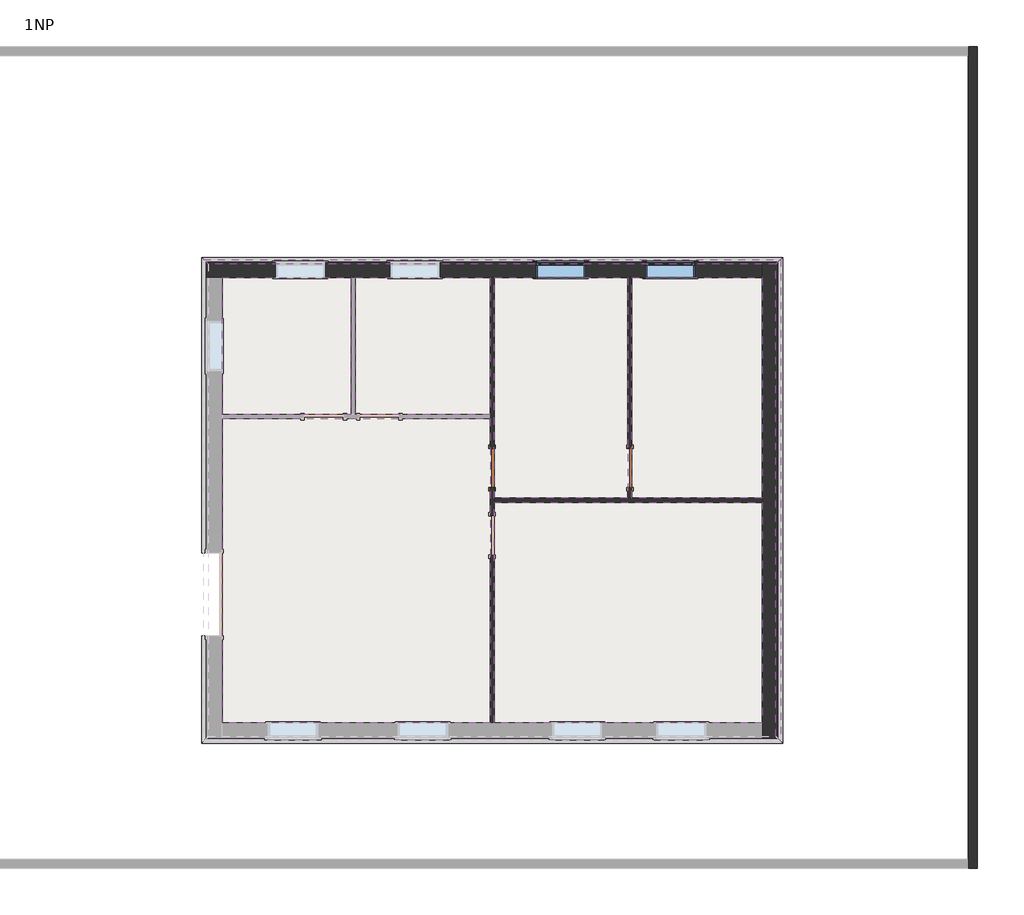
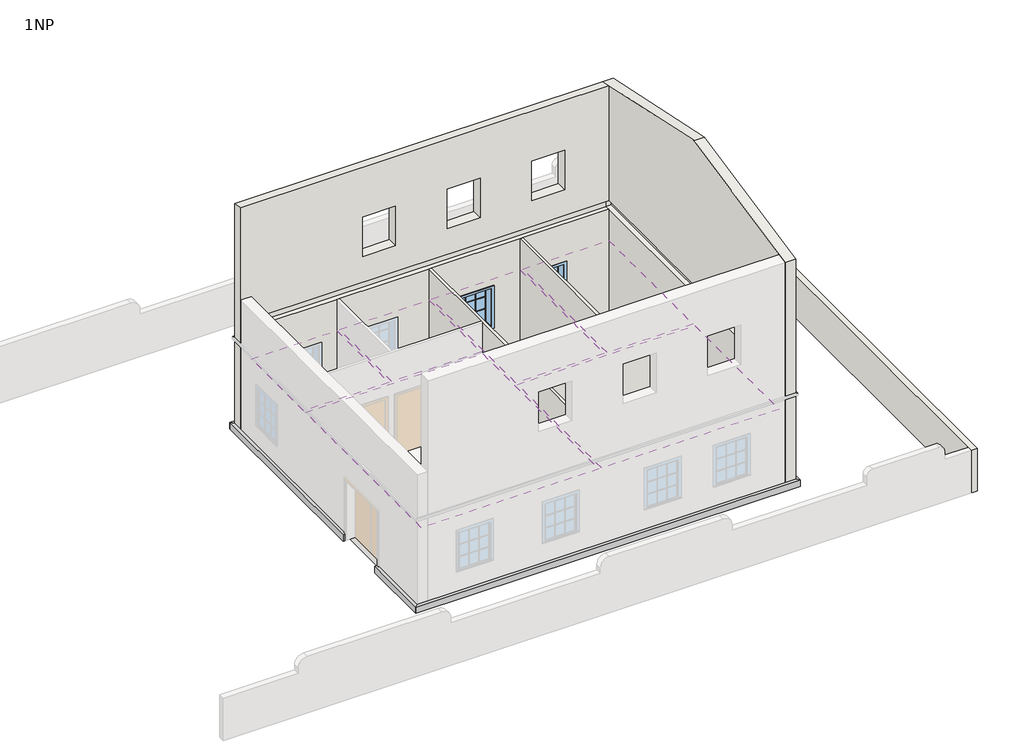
# One storey, part 2 of 2: 6 coverings, 6 proxies, 6 walls, 2 doors, 2 windows, 1 slab.
"""IFC4 building model written with IfcOpenShell, lengths in millimetres."""

from ifc_helpers import new_model, si_unit, frame, origin, origin_with_axes, place, context, project, spatial, polyline, outline, extrude, faceted_brep, transform, mapped, element, save
from components import m_single_flush_0864_x_2134mm_2f1c7364, m_casement_3x3_with_trim_1100_x_1400mm_61373874

model = new_model("IFC4")

# Units and contexts
model_context = context("Model", 3, world=origin())
ifc_project = project(units=[si_unit("LENGTHUNIT", "METRE", prefix="MILLI")], contexts=[model_context])

# Site, building, storey
site = spatial("IfcSite", under=ifc_project)
building = spatial("IfcBuilding", under=site)
storey = spatial("IfcBuildingStorey", under=building, Name="1NP", Elevation=0.0)

# Proxies
placement = place(None, origin())
element("IfcBuildingElementProxy", 1, Name="Wall Sweeps", at=placement, inside=storey, context=model_context, shape_type="Brep", body=[
    faceted_brep([(7957.8965437, -5261.3644596, 225.0), (7957.8965437, -5261.3644596, 0.0), (7855.3965437, -5158.8644596, 0.0), (7855.3965437, -5158.8644596, 225.0), (-4897.1034563, -5261.3644596, 225.0), (-4794.6034563, -5158.8644596, 225.0), (-4794.6034563, -5158.8644596, 0.0), (-4897.1034563, -5261.3644596, 0.0), (-4444.6034563, -5158.8644596, 0.0), (7505.3965437, -5158.8644596, 0.0)], [[[0, 1, 2, 3]], [[4, 5, 6, 7]], [[1, 0, 4, 7]], [[2, 1, 7, 6, 8, 9]], [[3, 2, 9, 8, 6, 5]], [[0, 3, 5, 4]]]),
])
element("IfcBuildingElementProxy", 2, Name="Reveals", at=placement, inside=storey, context=model_context, shape_type="SweptSolid", body=[
    extrude(outline(polyline([(-4749.6034563, 5346.1355404), (-4852.1034563, 5448.6355404), (7912.8965437, 5448.6355404), (7810.3965437, 5346.1355404), (-4749.6034563, 5346.1355404)])), frame((0.0, 0.0, 3200.0), z_axis=(0.0, 0.0, 1.0), x_axis=(1.0, 0.0, 0.0)), (0.0, 0.0, 1.0), 75.0),
])
element("IfcBuildingElementProxy", 3, Name="Wall Sweeps", at=placement, inside=storey, context=model_context, shape_type="Brep", body=[
    faceted_brep([(-4897.1034563, 5493.6355404, 225.0), (-4897.1034563, 5493.6355404, 0.0), (-4794.6034563, 5391.1355404, 0.0), (-4794.6034563, 5391.1355404, 225.0), (7957.8965437, 5493.6355404, 225.0), (7855.3965437, 5391.1355404, 225.0), (7855.3965437, 5391.1355404, 0.0), (7957.8965437, 5493.6355404, 0.0), (7505.3965437, 5391.1355404, 0.0)], [[[0, 1, 2, 3]], [[4, 5, 6, 7]], [[1, 0, 4, 7]], [[2, 1, 7, 6, 8]], [[3, 2, 8, 6, 5]], [[0, 3, 5, 4]]]),
])
element("IfcBuildingElementProxy", 4, Name="Wall Sweeps", at=placement, inside=storey, context=model_context, shape_type="Brep", body=[
    faceted_brep([(-4897.1034563, -5261.3644596, 225.0), (-4897.1034563, -5261.3644596, 0.0), (-4794.6034563, -5158.8644596, 0.0), (-4794.6034563, -5158.8644596, 225.0), (-4897.1034563, -2883.8644596, 225.0), (-4794.6034563, -2883.8644596, 225.0), (-4794.6034563, -2883.8644596, 0.0), (-4897.1034563, -2883.8644596, 0.0)], [[[0, 1, 2, 3]], [[4, 5, 6, 7]], [[1, 0, 4, 7]], [[2, 1, 7, 6]], [[3, 2, 6, 5]], [[0, 3, 5, 4]]]),
    faceted_brep([(-4897.1034563, -1053.8644596, 225.0), (-4897.1034563, -1053.8644596, 0.0), (-4794.6034563, -1053.8644596, 0.0), (-4794.6034563, -1053.8644596, 225.0), (-4897.1034563, 5493.6355404, 225.0), (-4794.6034563, 5391.1355404, 225.0), (-4794.6034563, 5391.1355404, 0.0), (-4897.1034563, 5493.6355404, 0.0), (-4794.6034563, 5041.1355404, 0.0)], [[[0, 1, 2, 3]], [[4, 5, 6, 7]], [[1, 0, 4, 7]], [[2, 1, 7, 6, 8]], [[3, 2, 8, 6, 5]], [[0, 3, 5, 4]]]),
])
element("IfcBuildingElementProxy", 5, Name="Reveals", at=placement, inside=storey, context=model_context, shape_type="SweptSolid", body=[
    extrude(outline(polyline([(7810.3965437, 5346.1355404), (7912.8965437, 5448.6355404), (7912.8965437, -5216.3644596), (7810.3965437, -5113.8644596), (7810.3965437, 5346.1355404)])), frame((0.0, 0.0, 3200.0), z_axis=(0.0, 0.0, 1.0), x_axis=(1.0, 0.0, 0.0)), (0.0, 0.0, 1.0), 75.0),
])
element("IfcBuildingElementProxy", 6, Name="Wall Sweeps", at=placement, inside=storey, context=model_context, shape_type="SweptSolid", body=[
    extrude(outline(polyline([(7855.3965437, 5391.1355404), (7957.8965437, 5493.6355404), (7957.8965437, -5261.3644596), (7855.3965437, -5158.8644596), (7855.3965437, 5391.1355404)])), origin_with_axes(), (0.0, 0.0, 1.0), 225.0),
])

# Coverings
element("IfcCovering", 7, ObjectType="600 x 600mm grid", at=placement, inside=storey, context=model_context, shape_type="SweptSolid", body=[
    extrude(outline(polyline([(-4444.6034563, -4808.8644596), (-4444.6034563, 1921.1355404), (1485.3965437, 1921.1355404), (1485.3965437, -4808.8644596), (-4444.6034563, -4808.8644596)])), frame((0.0, 0.0, 2600.0), z_axis=(0.0, 0.0, 1.0), x_axis=(1.0, 0.0, 0.0)), (0.0, 0.0, 1.0), 52.0),
])
element("IfcCovering", 8, ObjectType="600 x 600mm grid", at=placement, inside=storey, context=model_context, shape_type="SweptSolid", body=[
    extrude(outline(polyline([(-1499.6034563, 5041.1355404), (1485.3965437, 5041.1355404), (1485.3965437, 2011.1355404), (-1499.6034563, 2011.1355404), (-1499.6034563, 5041.1355404)])), frame((0.0, 0.0, 2600.0), z_axis=(0.0, 0.0, 1.0), x_axis=(1.0, 0.0, 0.0)), (0.0, 0.0, 1.0), 52.0),
])
element("IfcCovering", 9, ObjectType="600 x 600mm grid", at=placement, inside=storey, context=model_context, shape_type="SweptSolid", body=[
    extrude(outline(polyline([(-4444.6034563, 5041.1355404), (-1589.6034563, 5041.1355404), (-1589.6034563, 2011.1355404), (-4444.6034563, 2011.1355404), (-4444.6034563, 5041.1355404)])), frame((0.0, 0.0, 2600.0), z_axis=(0.0, 0.0, 1.0), x_axis=(1.0, 0.0, 0.0)), (0.0, 0.0, 1.0), 52.0),
])
element("IfcCovering", 10, ObjectType="600 x 600mm grid", at=placement, inside=storey, context=model_context, shape_type="SweptSolid", body=[
    extrude(outline(polyline([(1575.3965437, 161.1355404), (1575.3965437, 5041.1355404), (4535.3965437, 5041.1355404), (4535.3965437, 161.1355404), (1575.3965437, 161.1355404)])), frame((0.0, 0.0, 2600.0), z_axis=(0.0, 0.0, 1.0), x_axis=(1.0, 0.0, 0.0)), (0.0, 0.0, 1.0), 52.0),
])
element("IfcCovering", 11, ObjectType="600 x 600mm grid", at=placement, inside=storey, context=model_context, shape_type="SweptSolid", body=[
    extrude(outline(polyline([(4625.3965437, 5041.1355404), (7505.3965437, 5041.1355404), (7505.3965437, 161.1355404), (4625.3965437, 161.1355404), (4625.3965437, 5041.1355404)])), frame((0.0, 0.0, 2600.0), z_axis=(0.0, 0.0, 1.0), x_axis=(1.0, 0.0, 0.0)), (0.0, 0.0, 1.0), 52.0),
])
element("IfcCovering", 12, ObjectType="600 x 600mm grid", at=placement, inside=storey, context=model_context, shape_type="SweptSolid", body=[
    extrude(outline(polyline([(7505.3965437, -4808.8644596), (1575.3965437, -4808.8644596), (1575.3965437, 71.1355404), (7505.3965437, 71.1355404), (7505.3965437, -4808.8644596)])), frame((0.0, 0.0, 2600.0), z_axis=(0.0, 0.0, 1.0), x_axis=(1.0, 0.0, 0.0)), (0.0, 0.0, 1.0), 52.0),
])

# Doors
m_single_flush_0864_x_2134mm_shape = m_single_flush_0864_x_2134mm_2f1c7364(model_context)
element("IfcDoor", 13, ObjectType="M_Single-Flush : 0864 x 2134mm", at=placement, inside=storey, context=model_context, shape_type="MappedRepresentation", body=[
    mapped(m_single_flush_0864_x_2134mm_shape, transform((1530.3965437, 831.1817862, 0.0), x_axis=(0.0, -1.0, 0.0), y_axis=(1.0, 0.0, 0.0), z_axis=(0.0, 0.0, 1.0))),
])
element("IfcDoor", 14, ObjectType="M_Single-Flush : 0864 x 2134mm", at=placement, inside=storey, context=model_context, shape_type="MappedRepresentation", body=[
    mapped(m_single_flush_0864_x_2134mm_shape, transform((4580.3965437, 831.1817862, 0.0), x_axis=(0.0, -1.0, 0.0), y_axis=(1.0, 0.0, 0.0), z_axis=(0.0, 0.0, 1.0))),
])

# Slab
element("IfcSlab", 15, ObjectType="Generic 300mm", at=placement, inside=storey, context=model_context, shape_type="SweptSolid", body=[
    extrude(outline(polyline([(-4457.6034563, 5054.1355404), (7518.3965437, 5054.1355404), (7518.3965437, -4821.8644596), (-4457.6034563, -4821.8644596), (-4457.6034563, 5054.1355404)])), frame((0.0, 0.0, -300.0), z_axis=(0.0, 0.0, 1.0), x_axis=(1.0, 0.0, 0.0)), (0.0, 0.0, 1.0), 300.0),
])

# Walls
element("IfcWall", 16, ObjectType="Exterior - Brick on Mtl. Stud se základem", at=placement, inside=storey, context=model_context, shape_type="Brep", body=[
    faceted_brep([(-4794.6034563, 5041.1355404, 0.0), (-4444.6034563, 5041.1355404, 0.0), (-1589.6034563, 5041.1355404, 0.0), (-1499.6034563, 5041.1355404, 0.0), (1485.3965437, 5041.1355404, 0.0), (1575.3965437, 5041.1355404, 0.0), (4535.3965437, 5041.1355404, 0.0), (4625.3965437, 5041.1355404, 0.0), (7505.3965437, 5041.1355404, 0.0), (7505.3965437, 5041.1355404, 3700.0), (4625.3965437, 5041.1355404, 3700.0), (4535.3965437, 5041.1355404, 3700.0), (1575.3965437, 5041.1355404, 3700.0), (1485.3965437, 5041.1355404, 3700.0), (-1499.6034563, 5041.1355404, 3700.0), (-1589.6034563, 5041.1355404, 3700.0), (-4444.6034563, 5041.1355404, 3700.0), (-4609.6034563, 5041.1355404, 3700.0), (-4609.6034563, 5041.1355404, 4000.0), (-4444.6034563, 5041.1355404, 4000.0), (555.3965437, 5041.1355404, 4000.0), (655.3965437, 5041.1355404, 4000.0), (3655.3965437, 5041.1355404, 4000.0), (3755.3965437, 5041.1355404, 4000.0), (7505.3965437, 5041.1355404, 4000.0), (7505.3965437, 5041.1355404, 8074.3947966), (3755.3965437, 5041.1355404, 8074.3947966), (3655.3965437, 5041.1355404, 8074.3947966), (655.3965437, 5041.1355404, 8074.3947966), (555.3965437, 5041.1355404, 8074.3947966), (-4794.6034563, 5041.1355404, 8074.3947966), (-4794.6034563, 5041.1355404, 4800.0), (-4794.6034563, 5041.1355404, 3275.0), (-4749.6034563, 5041.1355404, 3275.0), (-4749.6034563, 5041.1355404, 3200.0), (-4794.6034563, 5041.1355404, 3200.0), (-4794.6034563, 5041.1355404, 225.0), (6022.8965437, 5041.1355404, 2315.0), (6022.8965437, 5041.1355404, 915.0), (4922.8965437, 5041.1355404, 915.0), (4922.8965437, 5041.1355404, 2315.0), (3597.8965437, 5041.1355404, 2315.0), (3597.8965437, 5041.1355404, 915.0), (2497.8965437, 5041.1355404, 915.0), (2497.8965437, 5041.1355404, 2315.0), (372.8965437, 5041.1355404, 2315.0), (372.8965437, 5041.1355404, 915.0), (-727.1034563, 5041.1355404, 915.0), (-727.1034563, 5041.1355404, 2315.0), (-2162.1034563, 5041.1355404, 2315.0), (-2162.1034563, 5041.1355404, 915.0), (-3262.1034563, 5041.1355404, 915.0), (-3262.1034563, 5041.1355404, 2315.0), (6022.8965437, 5041.1355404, 6315.0), (6022.8965437, 5041.1355404, 4915.0), (4922.8965437, 5041.1355404, 4915.0), (4922.8965437, 5041.1355404, 6315.0), (3197.8965437, 5041.1355404, 6315.0), (3197.8965437, 5041.1355404, 4915.0), (2097.8965437, 5041.1355404, 4915.0), (2097.8965437, 5041.1355404, 6315.0), (372.8965437, 5041.1355404, 6315.0), (372.8965437, 5041.1355404, 4915.0), (-727.1034563, 5041.1355404, 4915.0), (-727.1034563, 5041.1355404, 6315.0), (7505.3965437, 5391.1355404, 0.0), (-4794.6034563, 5391.1355404, 0.0), (-4794.6034563, 5391.1355404, 225.0), (-4794.6034563, 5391.1355404, 3200.0), (7505.3965437, 5391.1355404, 3200.0), (7505.3965437, 5391.1355404, 225.0), (6022.8965437, 5391.1355404, 915.0), (6022.8965437, 5391.1355404, 2315.0), (4922.8965437, 5391.1355404, 2315.0), (4922.8965437, 5391.1355404, 915.0), (3597.8965437, 5391.1355404, 915.0), (3597.8965437, 5391.1355404, 2315.0), (2497.8965437, 5391.1355404, 2315.0), (2497.8965437, 5391.1355404, 915.0), (372.8965437, 5391.1355404, 915.0), (372.8965437, 5391.1355404, 2315.0), (-727.1034563, 5391.1355404, 2315.0), (-727.1034563, 5391.1355404, 915.0), (-2162.1034563, 5391.1355404, 915.0), (-2162.1034563, 5391.1355404, 2315.0), (-3262.1034563, 5391.1355404, 2315.0), (-3262.1034563, 5391.1355404, 915.0), (-4794.6034563, 5391.1355404, 8000.0), (7505.3965437, 5391.1355404, 8000.0), (7505.3965437, 5391.1355404, 3275.0), (-4794.6034563, 5391.1355404, 3275.0), (6022.8965437, 5391.1355404, 4915.0), (6022.8965437, 5391.1355404, 6315.0), (4922.8965437, 5391.1355404, 6315.0), (4922.8965437, 5391.1355404, 4915.0), (3197.8965437, 5391.1355404, 4915.0), (3197.8965437, 5391.1355404, 6315.0), (2097.8965437, 5391.1355404, 6315.0), (2097.8965437, 5391.1355404, 4915.0), (372.8965437, 5391.1355404, 4915.0), (372.8965437, 5391.1355404, 6315.0), (-727.1034563, 5391.1355404, 6315.0), (-727.1034563, 5391.1355404, 4915.0), (7505.3965437, 5346.1355404, 3200.0), (7505.3965437, 5346.1355404, 3275.0), (7505.3965437, 5206.1355404, 4000.0), (7505.3965437, 5206.1355404, 3700.0), (-4609.6034563, 5206.1355404, 3700.0), (-4609.6034563, 5206.1355404, 4000.0), (-4749.6034563, 5346.1355404, 3275.0), (-4749.6034563, 5346.1355404, 3200.0)], [[[0, 1, 2, 3, 4, 5, 6, 7, 8, 9, 10, 11, 12, 13, 14, 15, 16, 17, 18, 19, 20, 21, 22, 23, 24, 25, 26, 27, 28, 29, 30, 31, 32, 33, 34, 35, 36], [37, 38, 39, 40], [41, 42, 43, 44], [45, 46, 47, 48], [49, 50, 51, 52], [53, 54, 55, 56], [57, 58, 59, 60], [61, 62, 63, 64]], [[65, 66, 67, 68, 69, 70], [71, 72, 73, 74], [75, 76, 77, 78], [79, 80, 81, 82], [83, 84, 85, 86]], [[87, 88, 89, 90], [91, 92, 93, 94], [95, 96, 97, 98], [99, 100, 101, 102]], [[8, 7, 6, 5, 4, 3, 2, 1, 0, 66, 65]], [[66, 0, 36, 35, 68, 67]], [[30, 87, 90, 32, 31]], [[8, 65, 70, 69, 103, 104, 89, 88, 25, 24, 105, 106, 9]], [[30, 29, 28, 27, 26, 25, 88, 87]], [[38, 37, 72, 71]], [[39, 38, 71, 74]], [[40, 39, 74, 73]], [[37, 40, 73, 72]], [[42, 41, 76, 75]], [[43, 42, 75, 78]], [[44, 43, 78, 77]], [[41, 44, 77, 76]], [[46, 45, 80, 79]], [[47, 46, 79, 82]], [[48, 47, 82, 81]], [[45, 48, 81, 80]], [[50, 49, 84, 83]], [[51, 50, 83, 86]], [[52, 51, 86, 85]], [[49, 52, 85, 84]], [[54, 53, 92, 91]], [[55, 54, 91, 94]], [[56, 55, 94, 93]], [[53, 56, 93, 92]], [[58, 57, 96, 95]], [[59, 58, 95, 98]], [[60, 59, 98, 97]], [[57, 60, 97, 96]], [[62, 61, 100, 99]], [[63, 62, 99, 102]], [[64, 63, 102, 101]], [[61, 64, 101, 100]], [[107, 17, 16, 15, 14, 13, 12, 11, 10, 9, 106]], [[108, 105, 24, 23, 22, 21, 20, 19, 18]], [[108, 107, 106, 105]], [[107, 108, 18, 17]], [[104, 109, 33, 32, 90, 89]], [[34, 110, 103, 69, 68, 35]], [[109, 110, 34, 33]], [[110, 109, 104, 103]]]),
])
element("IfcWall", 17, ObjectType="Exterior - Brick on Mtl. Stud se základem", at=placement, inside=storey, context=model_context, shape_type="Brep", body=[
    faceted_brep([(7505.3965437, 5391.1355404, 0.0), (7505.3965437, 5041.1355404, 0.0), (7505.3965437, 161.1355404, 0.0), (7505.3965437, 71.1355404, 0.0), (7505.3965437, -4808.8644596, 0.0), (7505.3965437, -5158.8644596, 0.0), (7505.3965437, -5158.8644596, 225.0), (7505.3965437, -5158.8644596, 3200.0), (7505.3965437, -5113.8644596, 3200.0), (7505.3965437, -5113.8644596, 3275.0), (7505.3965437, -5158.8644596, 3275.0), (7505.3965437, -5158.8644596, 8000.0), (7505.3965437, -4808.8644596, 8074.3947966), (7505.3965437, -2108.8644596, 8648.2975131), (7505.3965437, -2008.8644596, 8669.5531693), (7505.3965437, 66.1355404, 9110.6080347), (7505.3965437, 116.1355404, 9121.2358628), (7505.3965437, 166.1355404, 9110.6080347), (7505.3965437, 2241.1355404, 8669.5531693), (7505.3965437, 2341.1355404, 8648.2975131), (7505.3965437, 5041.1355404, 8074.3947966), (7505.3965437, 5391.1355404, 8000.0), (7505.3965437, 5391.1355404, 3275.0), (7505.3965437, 5346.1355404, 3275.0), (7505.3965437, 5346.1355404, 3200.0), (7505.3965437, 5391.1355404, 3200.0), (7505.3965437, 5391.1355404, 225.0), (7505.3965437, -4973.8644596, 3700.0), (7505.3965437, -4808.8644596, 3700.0), (7505.3965437, 71.1355404, 3700.0), (7505.3965437, 161.1355404, 3700.0), (7505.3965437, 5041.1355404, 3700.0), (7505.3965437, 5206.1355404, 3700.0), (7505.3965437, 5206.1355404, 4000.0), (7505.3965437, 5041.1355404, 4000.0), (7505.3965437, 2341.1355404, 4000.0), (7505.3965437, 2241.1355404, 4000.0), (7505.3965437, 166.1355404, 4000.0), (7505.3965437, 66.1355404, 4000.0), (7505.3965437, -2008.8644596, 4000.0), (7505.3965437, -2108.8644596, 4000.0), (7505.3965437, -4808.8644596, 4000.0), (7505.3965437, -4973.8644596, 4000.0), (7855.3965437, -5158.8644596, 0.0), (7855.3965437, 5391.1355404, 0.0), (7855.3965437, 5391.1355404, 225.0), (7855.3965437, 5391.1355404, 3200.0), (7855.3965437, -5158.8644596, 3200.0), (7855.3965437, -5158.8644596, 225.0), (7855.3965437, 5391.1355404, 8000.0), (7855.3965437, 116.1355404, 9121.2358628), (7855.3965437, -5158.8644596, 8000.0), (7855.3965437, -5158.8644596, 3275.0), (7855.3965437, 5391.1355404, 3275.0), (7670.3965437, -4973.8644596, 3700.0), (7670.3965437, 5206.1355404, 3700.0), (7670.3965437, 5206.1355404, 4000.0), (7670.3965437, -4973.8644596, 4000.0), (7810.3965437, -5113.8644596, 3275.0), (7810.3965437, 5346.1355404, 3275.0), (7810.3965437, 5346.1355404, 3200.0), (7810.3965437, -5113.8644596, 3200.0)], [[[0, 1, 2, 3, 4, 5, 6, 7, 8, 9, 10, 11, 12, 13, 14, 15, 16, 17, 18, 19, 20, 21, 22, 23, 24, 25, 26], [27, 28, 29, 30, 31, 32, 33, 34, 35, 36, 37, 38, 39, 40, 41, 42]], [[43, 44, 45, 46, 47, 48]], [[49, 50, 51, 52, 53]], [[5, 4, 3, 2, 1, 0, 44, 43]], [[21, 49, 53, 22]], [[44, 0, 26, 25, 46, 45]], [[5, 43, 48, 47, 7, 6]], [[51, 11, 10, 52]], [[49, 21, 20, 19, 18, 17, 16, 50]], [[11, 51, 50, 16, 15, 14, 13, 12]], [[54, 55, 32, 31, 30, 29, 28, 27]], [[56, 57, 42, 41, 40, 39, 38, 37, 36, 35, 34, 33]], [[55, 56, 33, 32]], [[55, 54, 57, 56]], [[57, 54, 27, 42]], [[58, 59, 23, 22, 53, 52, 10, 9]], [[60, 61, 8, 7, 47, 46, 25, 24]], [[59, 60, 24, 23]], [[59, 58, 61, 60]], [[61, 58, 9, 8]]]),
])
element("IfcWall", 18, ObjectType="Generic - 200mm", at=placement, inside=storey, context=model_context, shape_type="Brep", body=[
    faceted_brep([(12071.5198924, 10163.4874545, 0.0), (12071.5198924, 9963.4874545, 0.0), (12071.5198924, -7836.5125455, 0.0), (12071.5198924, -8036.5125455, 0.0), (12071.5198924, -8036.5125455, 1500.0), (12071.5198924, -7836.5125455, 1500.0), (12071.5198924, 9963.4874545, 1500.0), (12071.5198924, 10163.4874545, 1500.0), (12271.5198924, 10163.4874545, 0.0), (12271.5198924, 10163.4874545, 1500.0), (12271.5198924, -8036.5125455, 1500.0), (12271.5198924, -8036.5125455, 0.0)], [[[0, 1, 2, 3, 4, 5, 6, 7]], [[8, 9, 10, 11]], [[3, 2, 1, 0, 8, 11]], [[7, 6, 5, 4, 10, 9]], [[0, 7, 9, 8]], [[4, 3, 11, 10]]]),
])
element("IfcWall", 19, ObjectType="Generic - 90mm Brick", at=placement, inside=storey, context=model_context, shape_type="Brep", body=[
    faceted_brep([(1485.3965437, 399.1817862, 0.0), (1485.3965437, -233.8644596, 0.0), (1485.3965437, -233.8644596, 2134.0), (1485.3965437, -1097.8644596, 2134.0), (1485.3965437, -1097.8644596, 0.0), (1485.3965437, -4808.8644596, 0.0), (1485.3965437, -4808.8644596, 3700.0), (1485.3965437, 1921.1355404, 3700.0), (1485.3965437, 2011.1355404, 3700.0), (1485.3965437, 5041.1355404, 3700.0), (1485.3965437, 5041.1355404, 0.0), (1485.3965437, 2011.1355404, 0.0), (1485.3965437, 1921.1355404, 0.0), (1485.3965437, 1263.1817862, 0.0), (1485.3965437, 1263.1817862, 2134.0), (1485.3965437, 399.1817862, 2134.0), (1575.3965437, -233.8644596, 2134.0), (1575.3965437, -233.8644596, 0.0), (1575.3965437, 71.1355404, 0.0), (1575.3965437, 161.1355404, 0.0), (1575.3965437, 399.1817862, 0.0), (1575.3965437, 399.1817862, 2134.0), (1575.3965437, 1263.1817862, 2134.0), (1575.3965437, 1263.1817862, 0.0), (1575.3965437, 5041.1355404, 0.0), (1575.3965437, 5041.1355404, 3700.0), (1575.3965437, 161.1355404, 3700.0), (1575.3965437, 71.1355404, 3700.0), (1575.3965437, -4808.8644596, 3700.0), (1575.3965437, -4808.8644596, 0.0), (1575.3965437, -1097.8644596, 0.0), (1575.3965437, -1097.8644596, 2134.0)], [[[0, 1, 2, 3, 4, 5, 6, 7, 8, 9, 10, 11, 12, 13, 14, 15]], [[16, 17, 18, 19, 20, 21, 22, 23, 24, 25, 26, 27, 28, 29, 30, 31]], [[20, 19, 18, 17, 1, 0]], [[13, 12, 11, 10, 24, 23]], [[30, 29, 5, 4]], [[6, 5, 29, 28]], [[10, 9, 25, 24]], [[9, 8, 7, 6, 28, 27, 26, 25]], [[21, 20, 0, 15]], [[22, 21, 15, 14]], [[23, 22, 14, 13]], [[2, 1, 17, 16]], [[3, 2, 16, 31]], [[4, 3, 31, 30]]]),
])
element("IfcWall", 20, ObjectType="Generic - 90mm Brick", at=placement, inside=storey, context=model_context, shape_type="Brep", body=[
    faceted_brep([(1575.3965437, 71.1355404, 0.0), (7505.3965437, 71.1355404, 0.0), (7505.3965437, 71.1355404, 3700.0), (1575.3965437, 71.1355404, 3700.0), (1575.3965437, 161.1355404, 0.0), (1575.3965437, 161.1355404, 3700.0), (4535.3965437, 161.1355404, 3700.0), (4625.3965437, 161.1355404, 3700.0), (7505.3965437, 161.1355404, 3700.0), (7505.3965437, 161.1355404, 0.0), (4625.3965437, 161.1355404, 0.0), (4535.3965437, 161.1355404, 0.0)], [[[0, 1, 2, 3]], [[4, 5, 6, 7, 8, 9, 10, 11]], [[1, 0, 4, 11, 10, 9]], [[2, 1, 9, 8]], [[0, 3, 5, 4]], [[3, 2, 8, 7, 6, 5]]]),
])
element("IfcWall", 21, ObjectType="Generic - 90mm Brick", at=placement, inside=storey, context=model_context, shape_type="SweptSolid", body=[
    extrude(outline(polyline([(399.1817862, 2134.0), (399.1817862, 0.0), (161.1355404, 0.0), (161.1355404, 3700.0), (5041.1355404, 3700.0), (5041.1355404, 0.0), (1263.1817862, 0.0), (1263.1817862, 2134.0), (399.1817862, 2134.0)])), frame((4535.3965437, 0.0, 0.0), z_axis=(1.0, 0.0, 0.0), x_axis=(0.0, 1.0, 0.0)), (0.0, 0.0, 1.0), 90.0),
])

# Windows
m_casement_3x3_with_trim_1100_x_1400mm_shape = m_casement_3x3_with_trim_1100_x_1400mm_61373874(model_context)
element("IfcWindow", 22, ObjectType="M_Casement 3x3 with Trim : 1100 x 1400mm", at=placement, inside=storey, context=model_context, shape_type="MappedRepresentation", body=[
    mapped(m_casement_3x3_with_trim_1100_x_1400mm_shape, transform((5472.8965437, 5216.1355404, 0.0), x_axis=(1.0, 0.0, 0.0), y_axis=(0.0, 1.0, 0.0), z_axis=(0.0, 0.0, 1.0))),
])
element("IfcWindow", 23, ObjectType="M_Casement 3x3 with Trim : 1100 x 1400mm", at=placement, inside=storey, context=model_context, shape_type="MappedRepresentation", body=[
    mapped(m_casement_3x3_with_trim_1100_x_1400mm_shape, transform((3047.8965437, 5216.1355404, 0.0), x_axis=(1.0, 0.0, 0.0), y_axis=(0.0, 1.0, 0.0), z_axis=(0.0, 0.0, 1.0))),
])

save(model, "model.ifc")
